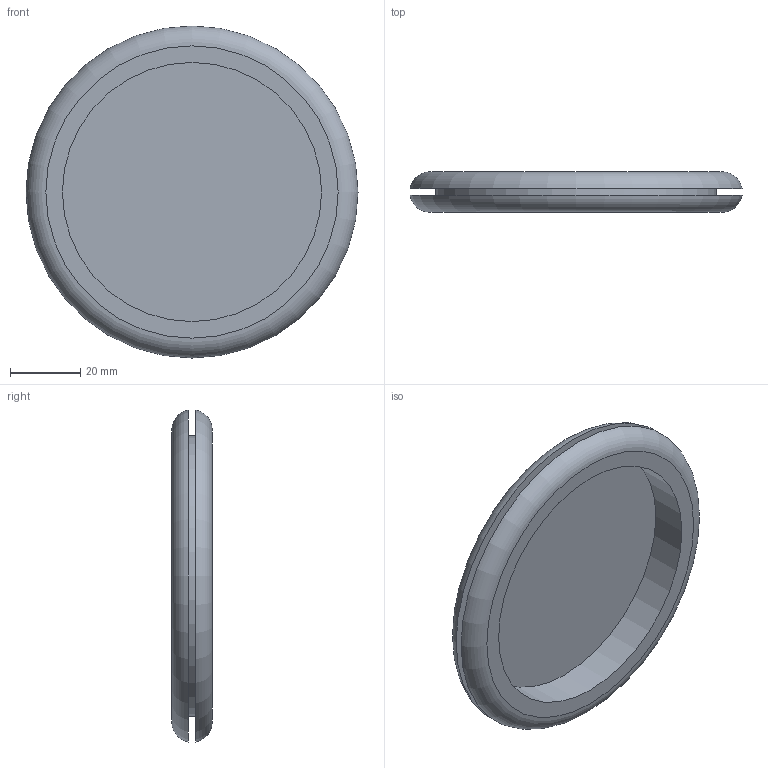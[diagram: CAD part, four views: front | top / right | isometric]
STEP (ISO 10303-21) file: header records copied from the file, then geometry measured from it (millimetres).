
FILE_DESCRIPTION(/* description */ (''),/* implementation_level */ '2;1');
FILE_NAME(/* name */ 'C:\Users\user\Desktop\PR3-80\PR3-80.stp',/* time_stamp */ '2022-06-21T14:45:09+09:00',/* author */ ('user'),/* organization */ (''),/* preprocessor_version */ 'ST-DEVELOPER v15.6',/* originating_system */ 'Autodesk Inventor 2015',/* authorisation */ '');
FILE_SCHEMA (('AUTOMOTIVE_DESIGN { 1 0 10303 214 3 1 1 }'));
Length unit declared in the file: millimetre
Products named in the file (1): PR3-80
Bounding box: 94.82 x 11.5 x 94.82 mm (x, y, z)
Volume: 28129 mm3; surface area: 22521.3 mm2
Topology: 1 solids, 1 shells, 9 faces, 12 edges, 8 vertices
Faces by surface type: plane 5, cylinder 2, torus 2
Full cylindrical faces by diameter (mm): 74 x1, 80 x1
Entity records: 198 total; most frequent: DIRECTION 36, CARTESIAN_POINT 26, AXIS2_PLACEMENT_3D 18, EDGE_LOOP 16, ORIENTED_EDGE 16, FACE_OUTER_BOUND 9, ADVANCED_FACE 9, CIRCLE 8
